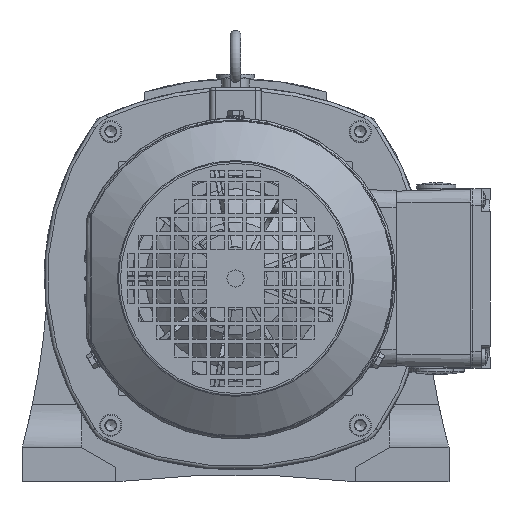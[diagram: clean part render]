
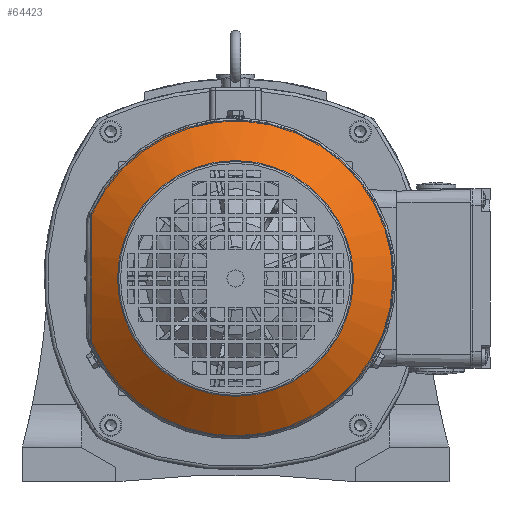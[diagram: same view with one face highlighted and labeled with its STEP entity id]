
A CAD part, left-side view. The second image highlights one B-rep face of the part: STEP entity #64423.
In plain terms, the highlighted conical face has half-angle 55 degrees and reference radius 92.721 mm.
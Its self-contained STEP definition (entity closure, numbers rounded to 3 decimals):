
#4401=CONICAL_SURFACE('',#68288,92.721,0.96);
#4708=CIRCLE('',#68286,69.068);
#4709=CIRCLE('',#68287,69.068);
#4710=CIRCLE('',#68289,92.721);
#4711=CIRCLE('',#68290,92.721);
#7009=FACE_OUTER_BOUND('',#10832,.T.);
#10832=EDGE_LOOP('',(#43126,#43127,#43128,#43129,#43130,#43131,#43132));
#14990=LINE('',#92671,#20102);
#20102=VECTOR('',#74694,92.721);
#25213=B_SPLINE_CURVE_WITH_KNOTS('',3,(#92674,#92675,#92676,#92677,#92678,
#92679,#92680,#92681,#92682,#92683,#92684,#92685,#92686,#92687,#92688,#92689),
 .UNSPECIFIED.,.F.,.F.,(4,2,2,2,2,2,2,4),(0.,0.01,
0.014,0.019,0.029,0.039,
0.058,0.077),.UNSPECIFIED.);
#26563=VERTEX_POINT('',#92662);
#26564=VERTEX_POINT('',#92664);
#26565=VERTEX_POINT('',#92668);
#26566=VERTEX_POINT('',#92669);
#26567=VERTEX_POINT('',#92672);
#32978=EDGE_CURVE('',#26563,#26564,#4708,.T.);
#32979=EDGE_CURVE('',#26564,#26563,#4709,.T.);
#32980=EDGE_CURVE('',#26565,#26566,#4710,.T.);
#32981=EDGE_CURVE('',#26566,#26564,#14990,.T.);
#32982=EDGE_CURVE('',#26566,#26567,#4711,.T.);
#32983=EDGE_CURVE('',#26567,#26565,#25213,.T.);
#43126=ORIENTED_EDGE('',*,*,#32980,.T.);
#43127=ORIENTED_EDGE('',*,*,#32981,.T.);
#43128=ORIENTED_EDGE('',*,*,#32978,.F.);
#43129=ORIENTED_EDGE('',*,*,#32979,.F.);
#43130=ORIENTED_EDGE('',*,*,#32981,.F.);
#43131=ORIENTED_EDGE('',*,*,#32982,.T.);
#43132=ORIENTED_EDGE('',*,*,#32983,.T.);
#64423=ADVANCED_FACE('',(#7009),#4401,.T.);
#68286=AXIS2_PLACEMENT_3D('',#92665,#74686,#74687);
#68287=AXIS2_PLACEMENT_3D('',#92666,#74688,#74689);
#68288=AXIS2_PLACEMENT_3D('',#92667,#74690,#74691);
#68289=AXIS2_PLACEMENT_3D('',#92670,#74692,#74693);
#68290=AXIS2_PLACEMENT_3D('',#92673,#74695,#74696);
#74686=DIRECTION('center_axis',(-1.,0.,0.));
#74687=DIRECTION('ref_axis',(0.,0.,
-1.));
#74688=DIRECTION('center_axis',(-1.,0.,0.));
#74689=DIRECTION('ref_axis',(0.,0.,
-1.));
#74690=DIRECTION('center_axis',(1.,0.,0.));
#74691=DIRECTION('ref_axis',(0.,0.,
1.));
#74692=DIRECTION('center_axis',(-1.,0.,0.));
#74693=DIRECTION('ref_axis',(0.,0.,
-1.));
#74694=DIRECTION('',(-0.574,0.,0.819));
#74695=DIRECTION('center_axis',(-1.,0.,0.));
#74696=DIRECTION('ref_axis',(0.,0.,
-1.));
#92662=CARTESIAN_POINT('',(-329.673,4.183,72.566));
#92664=CARTESIAN_POINT('',(-329.673,4.183,-65.57));
#92665=CARTESIAN_POINT('Origin',(-329.673,4.183,3.498));
#92666=CARTESIAN_POINT('Origin',(-329.673,4.183,3.498));
#92667=CARTESIAN_POINT('Origin',(-313.111,4.183,3.498));
#92668=CARTESIAN_POINT('',(-313.111,88.8,-34.411));
#92669=CARTESIAN_POINT('',(-313.111,4.183,-89.223));
#92670=CARTESIAN_POINT('Origin',(-313.111,4.183,3.498));
#92671=CARTESIAN_POINT('',(-313.111,4.183,-89.223));
#92672=CARTESIAN_POINT('',(-313.111,88.8,41.406));
#92673=CARTESIAN_POINT('Origin',(-313.111,4.183,3.498));
#92674=CARTESIAN_POINT('Ctrl Pts',(-313.111,88.8,41.406));
#92675=CARTESIAN_POINT('Ctrl Pts',(-313.975,88.836,38.309));
#92676=CARTESIAN_POINT('Ctrl Pts',(-314.755,88.87,35.191));
#92677=CARTESIAN_POINT('Ctrl Pts',(-315.778,88.916,30.479));
#92678=CARTESIAN_POINT('Ctrl Pts',(-316.095,88.93,28.902));
#92679=CARTESIAN_POINT('Ctrl Pts',(-316.676,88.957,25.741));
#92680=CARTESIAN_POINT('Ctrl Pts',(-316.939,88.97,24.158));
#92681=CARTESIAN_POINT('Ctrl Pts',(-317.647,89.003,19.401));
#92682=CARTESIAN_POINT('Ctrl Pts',(-318.008,89.021,16.219));
#92683=CARTESIAN_POINT('Ctrl Pts',(-318.491,89.045,9.83));
#92684=CARTESIAN_POINT('Ctrl Pts',(-318.612,89.051,6.623));
#92685=CARTESIAN_POINT('Ctrl Pts',(-318.605,89.05,-3.029));
#92686=CARTESIAN_POINT('Ctrl Pts',(-318.101,89.025,-9.392));
#92687=CARTESIAN_POINT('Ctrl Pts',(-316.216,88.935,-21.99));
#92688=CARTESIAN_POINT('Ctrl Pts',(-314.836,88.872,-28.225));
#92689=CARTESIAN_POINT('Ctrl Pts',(-313.111,88.8,-34.411));
